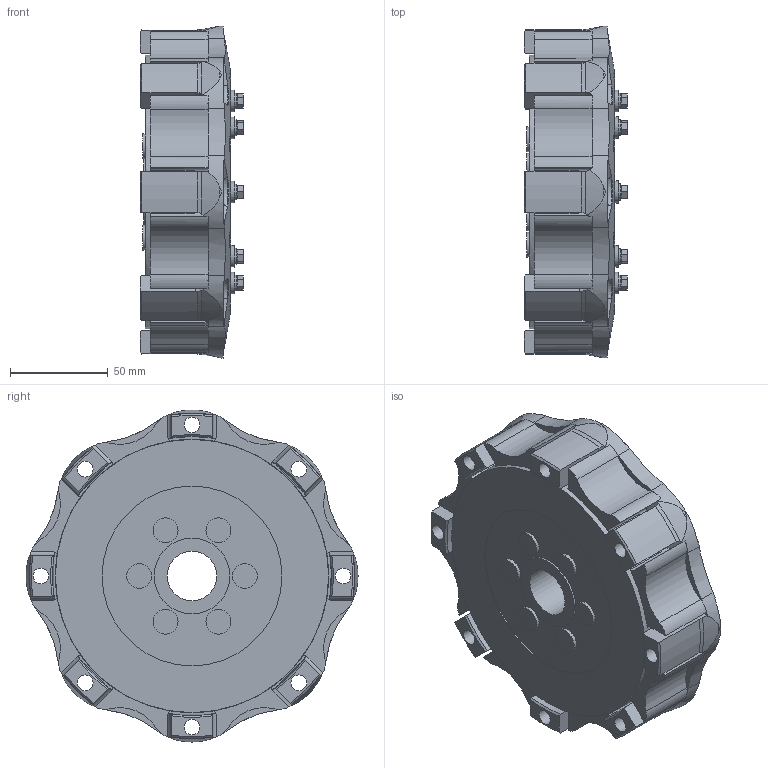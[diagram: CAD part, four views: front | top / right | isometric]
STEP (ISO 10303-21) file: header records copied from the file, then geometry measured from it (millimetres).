
FILE_DESCRIPTION(/* description */ ('Unknown'),/* implementation_level */ '2;1');
FILE_NAME(/* name */ '67-003HG-ACC',/* time_stamp */ '2017-09-11T09:01:02-07:00',/* author */ ('Unknown'),/* organization */ ('Unknown'),/* preprocessor_version */ 'ST-DEVELOPER v16.7',/* originating_system */ 'DEX',/* authorisation */ $);
FILE_SCHEMA (('AUTOMOTIVE_DESIGN {1 0 10303 214 3 1 1}'));
Length unit declared in the file: millimetre
Products named in the file (1): 67-003HG-ACC
Bounding box: 53.01 x 169.67 x 169.67 mm (x, y, z)
Volume: 677613.6 mm3; surface area: 133869.2 mm2
Topology: 1 solids, 1 shells, 766 faces, 2203 edges, 1460 vertices
Faces by surface type: plane 363, cylinder 319, cone 50, torus 34
Full cylindrical faces by diameter (mm): 4.572 x8, 8.077 x8, 8.128 x8, 11.176 x8, 12.7 x6, 25.4 x1, 38.837 x1, 71.095 x1, 71.12 x1, 91.948 x1, 139.7 x1, 142.697 x1
Entity records: 25433 total; most frequent: CARTESIAN_POINT 5670, ORIENTED_EDGE 4238, DIRECTION 3972, EDGE_CURVE 2119, AXIS2_PLACEMENT_3D 1468, VERTEX_POINT 1441, LINE 1036, VECTOR 1036
